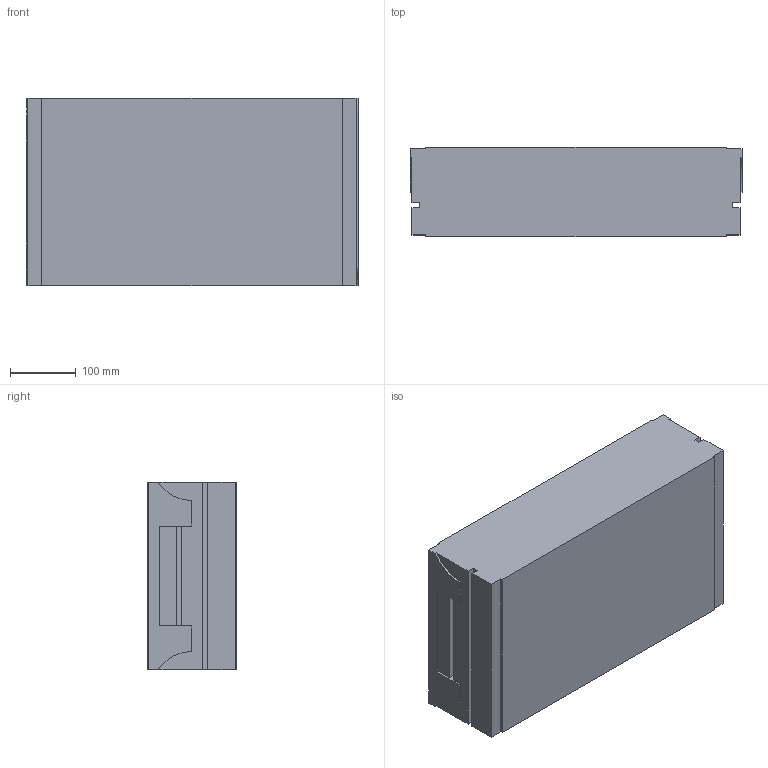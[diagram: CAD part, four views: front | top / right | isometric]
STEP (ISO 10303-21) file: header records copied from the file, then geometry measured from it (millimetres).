
FILE_DESCRIPTION (( 'STEP AP214' ), '1' );
FILE_NAME ('02.150M01.500.N FS-MTC-150 Kettingmont. eenheid.STEP', '2013-03-21T10:13:59', ( 'Gebruiker' ), ( '' ), 'SwSTEP 2.0', 'SolidWorks 2012', '' );
FILE_SCHEMA (( 'AUTOMOTIVE_DESIGN' ));
Length unit declared in the file: millimetre
Products named in the file (1): 02.150M01.500.N FS-MTC-150 Kettingmont. eenheid
Bounding box: 505 x 136 x 285 mm (x, y, z)
Volume: 19255262.3 mm3; surface area: 521062.9 mm2
Topology: 1 solids, 1 shells, 46 faces, 132 edges, 88 vertices
Faces by surface type: plane 42, cylinder 4
Entity records: 1518 total; most frequent: CARTESIAN_POINT 267, ORIENTED_EDGE 264, DIRECTION 234, EDGE_CURVE 132, LINE 124, VECTOR 124, VERTEX_POINT 88, AXIS2_PLACEMENT_3D 55
